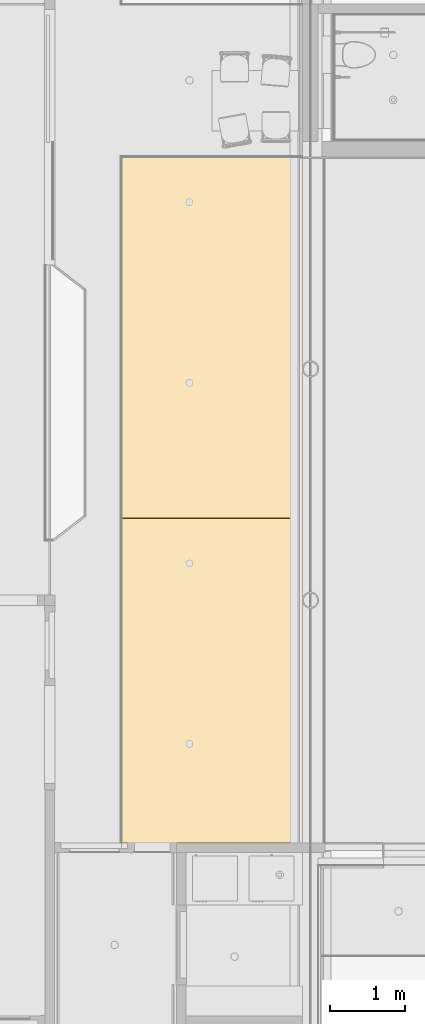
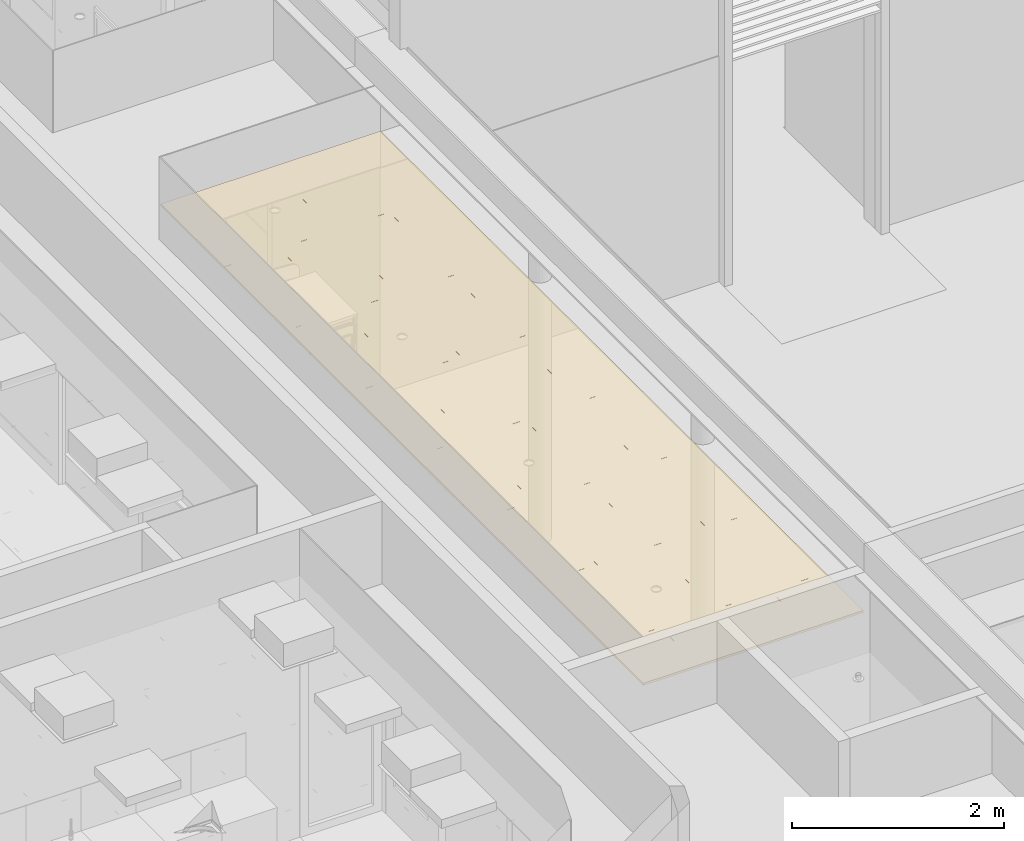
# One storey, part 167 of 347: 1 covering.
"""IFC2X3 building model written with IfcOpenShell, lengths in millimetres."""

import ifcopenshell
import ifcopenshell.guid

model = None  # the IFC model being written
_history = None  # IfcOwnerHistory: only IFC2X3 demands one
_inside = {}  # id of a spatial element -> (the spatial element, [elements in it])
_under = {}  # id of a project, library or spatial element -> (it, [spatial elements below it])
_declared = {}  # id of a project -> (the project, [libraries it declares])
_typed = {}  # id of a type object -> (the type object, [elements of that type])
_made_of = {}  # id of a material, layer set ... -> (it, [elements and type objects made of it])


def new_model(schema):
    """Start an empty IFC model of exactly this schema.

    Asked for "IFC4X3", IfcOpenShell would pick the latest addendum, in which some entities
    have other attributes; the version numbers below select the first issue.
    IFC2X3 requires an IfcOwnerHistory on every rooted entity: one is made here for all.
    """
    global model, _history
    if schema == "IFC4X3":
        model = ifcopenshell.file(schema_version=(4, 3, 0, 0))
    else:
        model = ifcopenshell.file(schema=schema)
    _inside.clear()
    _under.clear()
    _declared.clear()
    _typed.clear()
    _made_of.clear()
    _history = None
    if model.schema == "IFC2X3":
        org = make("IfcOrganization", Name="unknown")
        user = make(
            "IfcPersonAndOrganization",
            ThePerson=make("IfcPerson", FamilyName="unknown"),
            TheOrganization=org,
        )
        app = make(
            "IfcApplication",
            ApplicationDeveloper=org,
            Version="unknown",
            ApplicationFullName="unknown",
            ApplicationIdentifier="unknown",
        )
        _history = make(
            "IfcOwnerHistory",
            OwningUser=user,
            OwningApplication=app,
            ChangeAction="ADDED",
            CreationDate=0,
        )
    return model


def make(cls, **values):
    """One entity of the class cls with the attributes given. An attribute that is None is left unset."""
    return model.create_entity(
        cls, **{name: value for name, value in values.items() if value is not None}
    )


def entity(cls, *values):
    """Any entity or typed value of the class cls, its attributes in the order of the schema. None: left unset."""
    e = model.create_entity(cls)
    for i, value in enumerate(values):
        if value is not None:
            e[i] = value
    return e


def rooted(cls, **values):
    """An entity with a GlobalId (a new one), such as an element, a storey or a relation."""
    return make(cls, GlobalId=ifcopenshell.guid.new(), OwnerHistory=_history, **values)


def si_unit(unit_type, name, prefix=None):
    """IfcSIUnit, for example si_unit("LENGTHUNIT", "METRE", prefix="MILLI")."""
    return make("IfcSIUnit", UnitType=unit_type, Prefix=prefix, Name=name)


def converted_unit(unit_type, name, factor, base, dimensions=None, offset=None):
    """IfcConversionBasedUnit, such as the inch: factor (a typed value) times the base unit."""
    return make(
        "IfcConversionBasedUnit"
        if offset is None
        else "IfcConversionBasedUnitWithOffset",
        ConversionOffset=offset,
        Dimensions=None
        if dimensions is None
        else entity("IfcDimensionalExponents", *dimensions),
        UnitType=unit_type,
        Name=name,
        ConversionFactor=make(
            "IfcMeasureWithUnit", ValueComponent=factor, UnitComponent=base
        ),
    )


def derived_unit(unit_type, elements):
    """IfcDerivedUnit: a product of units, each with its exponent."""
    return make(
        "IfcDerivedUnit",
        Elements=[
            make("IfcDerivedUnitElement", Unit=unit, Exponent=power)
            for unit, power in elements
        ],
        UnitType=unit_type,
    )


def money_unit(currency):
    """IfcMonetaryUnit."""
    return make("IfcMonetaryUnit", Currency=currency)


def assignment(units):
    """IfcUnitAssignment: the units of a project."""
    return None if units is None else make("IfcUnitAssignment", Units=units)


def point(xyz):
    """IfcCartesianPoint."""
    return None if xyz is None else make("IfcCartesianPoint", Coordinates=xyz)


def direction(xyz):
    """IfcDirection."""
    return None if xyz is None else make("IfcDirection", DirectionRatios=xyz)


def frame(location, z_axis=None, x_axis=None):
    """IfcAxis2Placement3D, a coordinate frame: its origin and axes. An axis left out is left unset."""
    return make(
        "IfcAxis2Placement3D",
        Location=point(location),
        Axis=direction(z_axis),
        RefDirection=direction(x_axis),
    )


def origin_with_axes():
    """The frame at (0, 0, 0) with the z axis (0, 0, 1) and the x axis (1, 0, 0) written out."""
    return frame((0.0, 0.0, 0.0), z_axis=(0.0, 0.0, 1.0), x_axis=(1.0, 0.0, 0.0))


def place(relative_to, where):
    """IfcLocalPlacement: puts the frame where relative to a parent placement (None: the world)."""
    return make(
        "IfcLocalPlacement", PlacementRelTo=relative_to, RelativePlacement=where
    )


def context(
    kind, dimensions, precision=None, world=None, true_north=None, identifier=None
):
    """IfcGeometricRepresentationContext, for example the 3D "Model" context."""
    return make(
        "IfcGeometricRepresentationContext",
        ContextIdentifier=identifier,
        ContextType=kind,
        CoordinateSpaceDimension=dimensions,
        Precision=precision,
        WorldCoordinateSystem=world,
        TrueNorth=true_north,
    )


def subcontext(parent, identifier, kind, view, scale=None):
    """IfcGeometricRepresentationSubContext, for example "Body" below "Model"."""
    return make(
        "IfcGeometricRepresentationSubContext",
        ContextIdentifier=identifier,
        ContextType=kind,
        ParentContext=parent,
        TargetScale=scale,
        TargetView=view,
    )


def project(units=None, contexts=None):
    """IfcProject with its units and contexts."""
    return rooted(
        "IfcProject",
        Name="project",
        RepresentationContexts=contexts,
        UnitsInContext=assignment(units),
    )


def spatial(cls, under=None, at=None, **own):
    """A site, building, storey or space (cls), placed at a placement, below another one or the project."""
    s = rooted(cls, ObjectPlacement=at, **own)
    if under is not None:
        _under.setdefault(under.id(), (under, []))[1].append(s)
    return s


def faces_of(points, faces, orient=None, outer=None):
    """IfcFace entities. A face is a list of loops; a loop is a list of indices into points, from 0.

    orient and outer hold one flag for each loop. By default every Orientation is true, the
    first loop of a face is its IfcFaceOuterBound and the others are IfcFaceBound.
    """
    made = []
    for i, loops in enumerate(faces):
        bounds = []
        for j, loop in enumerate(loops):
            is_outer = j == 0 if outer is None else outer[i][j]
            bounds.append(
                make(
                    "IfcFaceOuterBound" if is_outer else "IfcFaceBound",
                    Bound=make("IfcPolyLoop", Polygon=[points[k] for k in loop]),
                    Orientation=True if orient is None else orient[i][j],
                )
            )
        made.append(make("IfcFace", Bounds=bounds))
    return made


def faceted_brep(points, faces, orient=None, outer=None, voids=None):
    """IfcFacetedBrep: a solid bounded by flat faces; with voids (closed shells), ...WithVoids."""
    shared = [point(p) for p in points]
    hull = make("IfcClosedShell", CfsFaces=faces_of(shared, faces, orient, outer))
    if voids is None:
        return make("IfcFacetedBrep", Outer=hull)
    return make(
        "IfcFacetedBrepWithVoids",
        Outer=hull,
        Voids=[
            make(cls, CfsFaces=faces_of(shared, fs, o, b)) for cls, fs, o, b in voids
        ],
    )


def shape(context_of_items, identifier, shape_type, items):
    """IfcShapeRepresentation: the items that make up one representation, for example the "Body"."""
    return make(
        "IfcShapeRepresentation",
        ContextOfItems=context_of_items,
        RepresentationIdentifier=identifier,
        RepresentationType=shape_type,
        Items=items,
    )


def made_of(thing, what):
    """Note that an element or type object is made of a material, layer set ...; save() writes the relation."""
    if what is not None:
        _made_of.setdefault(what.id(), (what, []))[1].append(thing)
    return thing


def type_object(cls, material=None, **own):
    """A type object (cls), such as IfcWallType, which elements share."""
    return made_of(rooted(cls, **own), material)


def element(
    cls,
    number,
    at=None,
    inside=None,
    cuts=None,
    type_object=None,
    material=None,
    context=None,
    identifier="Body",
    shape_type=None,
    held_by="IfcProductDefinitionShape",
    body=None,
    shapes=None,
    **own,
):
    """One element of the class cls, such as IfcWall. Its Tag is "e" and its number.

    at: its placement. inside: the storey or other place that contains it. cuts: it is an
    opening in that element (IfcRelVoidsElement). A single representation is given by context,
    identifier, shape_type and body (its items); several are given by shapes. held_by: the class
    of the entity that holds the representations. save() writes the other relations.
    """
    e = rooted(cls, Tag="e%d" % number, ObjectPlacement=at, **own)
    if body is not None:
        shapes = [shape(context, identifier, shape_type, body)]
    if shapes is not None:
        e.Representation = make(held_by, Representations=shapes)
    if inside is not None:
        _inside.setdefault(inside.id(), (inside, []))[1].append(e)
    if cuts is not None:
        rooted(
            "IfcRelVoidsElement", RelatingBuildingElement=cuts, RelatedOpeningElement=e
        )
    if type_object is not None:
        _typed.setdefault(type_object.id(), (type_object, []))[1].append(e)
    return made_of(e, material)


def aggregate(whole, parts):
    """IfcRelAggregates: a whole, such as a stair, and the parts it consists of."""
    return rooted("IfcRelAggregates", RelatingObject=whole, RelatedObjects=parts)


def save(model, path):
    """Write the relations noted so far, then the file.

    IfcRelAggregates (storeys below a building ...), IfcRelContainedInSpatialStructure (elements
    in a storey), IfcRelDefinesByType, IfcRelAssociatesMaterial and IfcRelDeclares: one each for
    every whole, place, type object, material and project.
    """
    for whole, parts in _under.values():
        aggregate(whole, parts)
    for where, things in _inside.values():
        rooted(
            "IfcRelContainedInSpatialStructure",
            RelatedElements=things,
            RelatingStructure=where,
        )
    for kind, things in _typed.values():
        rooted("IfcRelDefinesByType", RelatedObjects=things, RelatingType=kind)
    for what, things in _made_of.values():
        rooted("IfcRelAssociatesMaterial", RelatedObjects=things, RelatingMaterial=what)
    for by, libraries in _declared.values():
        rooted("IfcRelDeclares", RelatingContext=by, RelatedDefinitions=libraries)
    model.write(path)


model = new_model("IFC2X3")

# Units and contexts
model_context = context("Model", 3, precision=0.01, world=origin_with_axes(), true_north=direction((0.0, 1.0)))
plan_context = context("Plan", 3, precision=0.01, world=origin_with_axes(), true_north=direction((0.0, 1.0)))
body_context = subcontext(model_context, "Body", "Model", "MODEL_VIEW")
ifc_project = project(units=[si_unit("LENGTHUNIT", "METRE", prefix="MILLI"), si_unit("AREAUNIT", "SQUARE_METRE"), si_unit("VOLUMEUNIT", "CUBIC_METRE"), converted_unit("PLANEANGLEUNIT", "DEGREE", entity("IfcPlaneAngleMeasure", 0.0174532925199), si_unit("PLANEANGLEUNIT", "RADIAN"), dimensions=[0, 0, 0, 0, 0, 0, 0]), money_unit("EUR"), converted_unit("TIMEUNIT", "Year", entity("IfcTimeMeasure", 31556926.0), si_unit("TIMEUNIT", "SECOND"), dimensions=[0, 0, 1, 0, 0, 0, 0]), si_unit("MASSUNIT", "GRAM", prefix="KILO"), si_unit("THERMODYNAMICTEMPERATUREUNIT", "DEGREE_CELSIUS"), si_unit("LUMINOUSINTENSITYUNIT", "LUMEN"), si_unit("ENERGYUNIT", "JOULE", prefix="MEGA"), derived_unit("THERMALCONDUCTANCEUNIT", [(si_unit("POWERUNIT", "WATT"), 1), (si_unit("LENGTHUNIT", "METRE"), -1), (si_unit("THERMODYNAMICTEMPERATUREUNIT", "KELVIN"), -1)]), derived_unit("SPECIFICHEATCAPACITYUNIT", [(si_unit("ENERGYUNIT", "JOULE"), 1), (si_unit("MASSUNIT", "GRAM", prefix="KILO"), -1), (si_unit("THERMODYNAMICTEMPERATUREUNIT", "KELVIN"), -1)]), derived_unit("MASSDENSITYUNIT", [(si_unit("MASSUNIT", "GRAM", prefix="KILO"), 1), (si_unit("VOLUMEUNIT", "CUBIC_METRE"), -1)])], contexts=[model_context, plan_context])

# Site, building, storey
site_placement = place(None, origin_with_axes())
site = spatial("IfcSite", under=ifc_project, at=site_placement, Name="Site", CompositionType="ELEMENT")
building_placement = place(site_placement, origin_with_axes())
building = spatial("IfcBuilding", under=site, at=building_placement, Name="Naam gebouw", CompositionType="ELEMENT")
storey_placement = place(building_placement, origin_with_axes())
storey = spatial("IfcBuildingStorey", under=building, at=storey_placement, Name="begane grond", CompositionType="ELEMENT", Elevation=0.0)

# Covering
covering_type = type_object("IfcCoveringType", Name="Ceiling Editor INT_v2.01", PredefinedType="CEILING")
covering_placement = place(storey_placement, frame((33095.0000548, 16825.0009224, 3000.0), z_axis=(0.0, 0.0, 1.0), x_axis=(1.0, 0.0, 0.0)))
element("IfcCovering", 1, at=covering_placement, inside=storey, type_object=covering_type, Name="45 Plafondafwerkingen_77 garderobe", PredefinedType="CEILING", context=body_context, shape_type="Brep", body=[
    faceted_brep([(0.0999999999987, 0.0, 20.0), (599.9, 0.0, 20.0), (599.9, 714.89907763, 20.0), (0.0999999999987, 714.89907763, 20.0), (0.0999999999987, 0.0, 0.0), (599.9, 0.0, 0.0), (599.9, 714.89907763, 0.0), (0.0999999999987, 714.89907763, 0.0)], [[[0, 1, 2, 3]], [[1, 0, 4, 5]], [[1, 5, 6, 2]], [[2, 6, 7, 3]], [[4, 0, 3, 7]], [[5, 4, 7, 6]]]),
    faceted_brep([(599.9, 715.09907763, 20.0), (599.9, 715.09907763, 0.0), (599.9, 1914.89907763, 0.0), (599.9, 1914.89907763, 20.0), (0.0999999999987, 715.09907763, 20.0), (0.0999999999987, 715.09907763, 0.0), (0.0999999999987, 1914.89907763, 0.0), (0.0999999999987, 1914.89907763, 20.0)], [[[0, 1, 2, 3]], [[4, 5, 1, 0]], [[2, 1, 5, 6]], [[3, 2, 6, 7]], [[4, 0, 3, 7]], [[7, 6, 5, 4]]]),
    faceted_brep([(599.9, 1915.09907763, 20.0), (599.9, 1915.09907763, 0.0), (599.9, 3114.89907763, 0.0), (599.9, 3114.89907763, 20.0), (0.0999999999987, 1915.09907763, 20.0), (0.0999999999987, 1915.09907763, 0.0), (0.0999999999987, 3114.89907763, 0.0), (0.0999999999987, 3114.89907763, 20.0)], [[[0, 1, 2, 3]], [[4, 5, 1, 0]], [[2, 1, 5, 6]], [[3, 2, 6, 7]], [[4, 0, 3, 7]], [[7, 6, 5, 4]]]),
    faceted_brep([(599.9, 3115.09907763, 20.0), (599.9, 3115.09907763, 0.0), (599.9, 4314.89907763, 0.0), (599.9, 4314.89907763, 20.0), (0.0999999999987, 3115.09907763, 20.0), (0.0999999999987, 3115.09907763, 0.0), (0.0999999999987, 4314.89907763, 0.0), (0.0999999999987, 4314.89907763, 20.0)], [[[0, 1, 2, 3]], [[4, 5, 1, 0]], [[2, 1, 5, 6]], [[3, 2, 6, 7]], [[4, 0, 3, 7]], [[7, 6, 5, 4]]]),
    faceted_brep([(599.9, 4315.09907763, 20.0), (599.9, 4315.09907763, 0.0), (599.9, 5514.89907763, 0.0), (599.9, 5514.89907763, 20.0), (0.0999999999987, 4315.09907763, 20.0), (0.0999999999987, 4315.09907763, 0.0), (0.0999999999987, 5514.89907763, 0.0), (0.0999999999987, 5514.89907763, 20.0)], [[[0, 1, 2, 3]], [[4, 5, 1, 0]], [[2, 1, 5, 6]], [[3, 2, 6, 7]], [[4, 0, 3, 7]], [[7, 6, 5, 4]]]),
    faceted_brep([(599.9, 5515.09907763, 20.0), (599.9, 5515.09907763, 0.0), (599.9, 6714.89907763, 0.0), (599.9, 6714.89907763, 20.0), (0.0999999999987, 5515.09907763, 20.0), (0.0999999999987, 5515.09907763, 0.0), (0.0999999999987, 6714.89907763, 0.0), (0.0999999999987, 6714.89907763, 20.0)], [[[0, 1, 2, 3]], [[4, 5, 1, 0]], [[2, 1, 5, 6]], [[3, 2, 6, 7]], [[4, 0, 3, 7]], [[7, 6, 5, 4]]]),
    faceted_brep([(599.9, 6715.09907763, 20.0), (599.9, 6715.09907763, 0.0), (599.9, 7914.89907763, 0.0), (599.9, 7914.89907763, 20.0), (0.0999999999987, 6715.09907763, 20.0), (0.0999999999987, 6715.09907763, 0.0), (0.0999999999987, 7914.89907763, 0.0), (0.0999999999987, 7914.89907763, 20.0)], [[[0, 1, 2, 3]], [[4, 5, 1, 0]], [[2, 1, 5, 6]], [[3, 2, 6, 7]], [[4, 0, 3, 7]], [[7, 6, 5, 4]]]),
    faceted_brep([(599.9, 7915.09907763, 20.0), (599.9, 7915.09907763, 0.0), (599.9, 9114.89907763, 0.0), (599.9, 9114.89907763, 20.0), (0.0999999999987, 7915.09907763, 20.0), (0.0999999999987, 7915.09907763, 0.0), (0.0999999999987, 9114.89907763, 0.0), (0.0999999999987, 9114.89907763, 20.0)], [[[0, 1, 2, 3]], [[4, 5, 1, 0]], [[2, 1, 5, 6]], [[3, 2, 6, 7]], [[4, 0, 3, 7]], [[7, 6, 5, 4]]]),
    faceted_brep([(600.1, 0.0, 20.0), (1199.9, 0.0, 20.0), (1199.9, 714.89907763, 20.0), (600.1, 714.89907763, 20.0), (600.1, 0.0, 0.0), (1199.9, 0.0, 0.0), (1199.9, 714.89907763, 0.0), (600.1, 714.89907763, 0.0)], [[[0, 1, 2, 3]], [[1, 0, 4, 5]], [[1, 5, 6, 2]], [[2, 6, 7, 3]], [[4, 0, 3, 7]], [[5, 4, 7, 6]]]),
    faceted_brep([(1199.9, 715.09907763, 20.0), (1199.9, 715.09907763, 0.0), (1199.9, 1914.89907763, 0.0), (1199.9, 1914.89907763, 20.0), (600.1, 715.09907763, 20.0), (600.1, 715.09907763, 0.0), (600.1, 1914.89907763, 0.0), (600.1, 1914.89907763, 20.0)], [[[0, 1, 2, 3]], [[4, 5, 1, 0]], [[2, 1, 5, 6]], [[3, 2, 6, 7]], [[4, 0, 3, 7]], [[7, 6, 5, 4]]]),
    faceted_brep([(1199.9, 1915.09907763, 20.0), (1199.9, 1915.09907763, 0.0), (1199.9, 3114.89907763, 0.0), (1199.9, 3114.89907763, 20.0), (600.1, 1915.09907763, 20.0), (600.1, 1915.09907763, 0.0), (600.1, 3114.89907763, 0.0), (600.1, 3114.89907763, 20.0)], [[[0, 1, 2, 3]], [[4, 5, 1, 0]], [[2, 1, 5, 6]], [[3, 2, 6, 7]], [[4, 0, 3, 7]], [[7, 6, 5, 4]]]),
    faceted_brep([(1199.9, 3115.09907763, 20.0), (1199.9, 3115.09907763, 0.0), (1199.9, 4314.89907763, 0.0), (1199.9, 4314.89907763, 20.0), (600.1, 3115.09907763, 20.0), (600.1, 3115.09907763, 0.0), (600.1, 4314.89907763, 0.0), (600.1, 4314.89907763, 20.0)], [[[0, 1, 2, 3]], [[4, 5, 1, 0]], [[2, 1, 5, 6]], [[3, 2, 6, 7]], [[4, 0, 3, 7]], [[7, 6, 5, 4]]]),
    faceted_brep([(1199.9, 4315.09907763, 20.0), (1199.9, 4315.09907763, 0.0), (1199.9, 5514.89907763, 0.0), (1199.9, 5514.89907763, 20.0), (600.1, 4315.09907763, 20.0), (600.1, 4315.09907763, 0.0), (600.1, 5514.89907763, 0.0), (600.1, 5514.89907763, 20.0)], [[[0, 1, 2, 3]], [[4, 5, 1, 0]], [[2, 1, 5, 6]], [[3, 2, 6, 7]], [[4, 0, 3, 7]], [[7, 6, 5, 4]]]),
    faceted_brep([(1199.9, 5515.09907763, 20.0), (1199.9, 5515.09907763, 0.0), (1199.9, 6714.89907763, 0.0), (1199.9, 6714.89907763, 20.0), (600.1, 5515.09907763, 20.0), (600.1, 5515.09907763, 0.0), (600.1, 6714.89907763, 0.0), (600.1, 6714.89907763, 20.0)], [[[0, 1, 2, 3]], [[4, 5, 1, 0]], [[2, 1, 5, 6]], [[3, 2, 6, 7]], [[4, 0, 3, 7]], [[7, 6, 5, 4]]]),
    faceted_brep([(1199.9, 6715.09907763, 20.0), (1199.9, 6715.09907763, 0.0), (1199.9, 7914.89907763, 0.0), (1199.9, 7914.89907763, 20.0), (600.1, 6715.09907763, 20.0), (600.1, 6715.09907763, 0.0), (600.1, 7914.89907763, 0.0), (600.1, 7914.89907763, 20.0)], [[[0, 1, 2, 3]], [[4, 5, 1, 0]], [[2, 1, 5, 6]], [[3, 2, 6, 7]], [[4, 0, 3, 7]], [[7, 6, 5, 4]]]),
    faceted_brep([(1199.9, 7915.09907763, 20.0), (1199.9, 7915.09907763, 0.0), (1199.9, 9114.89907763, 0.0), (1199.9, 9114.89907763, 20.0), (600.1, 7915.09907763, 20.0), (600.1, 7915.09907763, 0.0), (600.1, 9114.89907763, 0.0), (600.1, 9114.89907763, 20.0)], [[[0, 1, 2, 3]], [[4, 5, 1, 0]], [[2, 1, 5, 6]], [[3, 2, 6, 7]], [[4, 0, 3, 7]], [[7, 6, 5, 4]]]),
    faceted_brep([(1200.1, 0.0, 20.0), (1799.9, 0.0, 20.0), (1799.9, 714.89907763, 20.0), (1200.1, 714.89907763, 20.0), (1200.1, 0.0, 0.0), (1799.9, 0.0, 0.0), (1799.9, 714.89907763, 0.0), (1200.1, 714.89907763, 0.0)], [[[0, 1, 2, 3]], [[1, 0, 4, 5]], [[1, 5, 6, 2]], [[2, 6, 7, 3]], [[4, 0, 3, 7]], [[5, 4, 7, 6]]]),
    faceted_brep([(1799.9, 715.09907763, 20.0), (1799.9, 715.09907763, 0.0), (1799.9, 1914.89907763, 0.0), (1799.9, 1914.89907763, 20.0), (1200.1, 715.09907763, 20.0), (1200.1, 715.09907763, 0.0), (1200.1, 1914.89907763, 0.0), (1200.1, 1914.89907763, 20.0)], [[[0, 1, 2, 3]], [[4, 5, 1, 0]], [[2, 1, 5, 6]], [[3, 2, 6, 7]], [[4, 0, 3, 7]], [[7, 6, 5, 4]]]),
    faceted_brep([(1799.9, 1915.09907763, 20.0), (1799.9, 1915.09907763, 0.0), (1799.9, 3114.89907763, 0.0), (1799.9, 3114.89907763, 20.0), (1200.1, 1915.09907763, 20.0), (1200.1, 1915.09907763, 0.0), (1200.1, 3114.89907763, 0.0), (1200.1, 3114.89907763, 20.0)], [[[0, 1, 2, 3]], [[4, 5, 1, 0]], [[2, 1, 5, 6]], [[3, 2, 6, 7]], [[4, 0, 3, 7]], [[7, 6, 5, 4]]]),
    faceted_brep([(1799.9, 3115.09907763, 20.0), (1799.9, 3115.09907763, 0.0), (1799.9, 4314.89907763, 0.0), (1799.9, 4314.89907763, 20.0), (1200.1, 3115.09907763, 20.0), (1200.1, 3115.09907763, 0.0), (1200.1, 4314.89907763, 0.0), (1200.1, 4314.89907763, 20.0)], [[[0, 1, 2, 3]], [[4, 5, 1, 0]], [[2, 1, 5, 6]], [[3, 2, 6, 7]], [[4, 0, 3, 7]], [[7, 6, 5, 4]]]),
    faceted_brep([(1799.9, 4315.09907763, 20.0), (1799.9, 4315.09907763, 0.0), (1799.9, 5514.89907763, 0.0), (1799.9, 5514.89907763, 20.0), (1200.1, 4315.09907763, 20.0), (1200.1, 4315.09907763, 0.0), (1200.1, 5514.89907763, 0.0), (1200.1, 5514.89907763, 20.0)], [[[0, 1, 2, 3]], [[4, 5, 1, 0]], [[2, 1, 5, 6]], [[3, 2, 6, 7]], [[4, 0, 3, 7]], [[7, 6, 5, 4]]]),
    faceted_brep([(1799.9, 5515.09907763, 20.0), (1799.9, 5515.09907763, 0.0), (1799.9, 6714.89907763, 0.0), (1799.9, 6714.89907763, 20.0), (1200.1, 5515.09907763, 20.0), (1200.1, 5515.09907763, 0.0), (1200.1, 6714.89907763, 0.0), (1200.1, 6714.89907763, 20.0)], [[[0, 1, 2, 3]], [[4, 5, 1, 0]], [[2, 1, 5, 6]], [[3, 2, 6, 7]], [[4, 0, 3, 7]], [[7, 6, 5, 4]]]),
    faceted_brep([(1799.9, 6715.09907763, 20.0), (1799.9, 6715.09907763, 0.0), (1799.9, 7914.89907763, 0.0), (1799.9, 7914.89907763, 20.0), (1200.1, 6715.09907763, 20.0), (1200.1, 6715.09907763, 0.0), (1200.1, 7914.89907763, 0.0), (1200.1, 7914.89907763, 20.0)], [[[0, 1, 2, 3]], [[4, 5, 1, 0]], [[2, 1, 5, 6]], [[3, 2, 6, 7]], [[4, 0, 3, 7]], [[7, 6, 5, 4]]]),
    faceted_brep([(1799.9, 7915.09907763, 20.0), (1799.9, 7915.09907763, 0.0), (1799.9, 9114.89907763, 0.0), (1799.9, 9114.89907763, 20.0), (1200.1, 7915.09907763, 20.0), (1200.1, 7915.09907763, 0.0), (1200.1, 9114.89907763, 0.0), (1200.1, 9114.89907763, 20.0)], [[[0, 1, 2, 3]], [[4, 5, 1, 0]], [[2, 1, 5, 6]], [[3, 2, 6, 7]], [[4, 0, 3, 7]], [[7, 6, 5, 4]]]),
    faceted_brep([(1800.1, 0.0, 20.0), (2399.9, 0.0, 20.0), (2399.9, 714.89907763, 20.0), (1800.1, 714.89907763, 20.0), (1800.1, 0.0, 0.0), (2399.9, 0.0, 0.0), (2399.9, 714.89907763, 0.0), (1800.1, 714.89907763, 0.0)], [[[0, 1, 2, 3]], [[1, 0, 4, 5]], [[1, 5, 6, 2]], [[2, 6, 7, 3]], [[4, 0, 3, 7]], [[5, 4, 7, 6]]]),
    faceted_brep([(2399.9, 715.09907763, 20.0), (2399.9, 715.09907763, 0.0), (2399.9, 1914.89907763, 0.0), (2399.9, 1914.89907763, 20.0), (1800.1, 715.09907763, 20.0), (1800.1, 715.09907763, 0.0), (1800.1, 1914.89907763, 0.0), (1800.1, 1914.89907763, 20.0)], [[[0, 1, 2, 3]], [[4, 5, 1, 0]], [[2, 1, 5, 6]], [[3, 2, 6, 7]], [[4, 0, 3, 7]], [[7, 6, 5, 4]]]),
    faceted_brep([(2399.9, 1915.09907763, 20.0), (2399.9, 1915.09907763, 0.0), (2399.9, 3114.89907763, 0.0), (2399.9, 3114.89907763, 20.0), (1800.1, 1915.09907763, 20.0), (1800.1, 1915.09907763, 0.0), (1800.1, 3114.89907763, 0.0), (1800.1, 3114.89907763, 20.0)], [[[0, 1, 2, 3]], [[4, 5, 1, 0]], [[2, 1, 5, 6]], [[3, 2, 6, 7]], [[4, 0, 3, 7]], [[7, 6, 5, 4]]]),
    faceted_brep([(2399.9, 3115.09907763, 20.0), (2399.9, 3115.09907763, 0.0), (2399.9, 4314.89907763, 0.0), (2399.9, 4314.89907763, 20.0), (1800.1, 3115.09907763, 20.0), (1800.1, 3115.09907763, 0.0), (1800.1, 4314.89907763, 0.0), (1800.1, 4314.89907763, 20.0)], [[[0, 1, 2, 3]], [[4, 5, 1, 0]], [[2, 1, 5, 6]], [[3, 2, 6, 7]], [[4, 0, 3, 7]], [[7, 6, 5, 4]]]),
    faceted_brep([(2399.9, 4315.09907763, 20.0), (2399.9, 4315.09907763, 0.0), (2399.9, 5514.89907763, 0.0), (2399.9, 5514.89907763, 20.0), (1800.1, 4315.09907763, 20.0), (1800.1, 4315.09907763, 0.0), (1800.1, 5514.89907763, 0.0), (1800.1, 5514.89907763, 20.0)], [[[0, 1, 2, 3]], [[4, 5, 1, 0]], [[2, 1, 5, 6]], [[3, 2, 6, 7]], [[4, 0, 3, 7]], [[7, 6, 5, 4]]]),
    faceted_brep([(2399.9, 5515.09907763, 20.0), (2399.9, 5515.09907763, 0.0), (2399.9, 6714.89907763, 0.0), (2399.9, 6714.89907763, 20.0), (1800.1, 5515.09907763, 20.0), (1800.1, 5515.09907763, 0.0), (1800.1, 6714.89907763, 0.0), (1800.1, 6714.89907763, 20.0)], [[[0, 1, 2, 3]], [[4, 5, 1, 0]], [[2, 1, 5, 6]], [[3, 2, 6, 7]], [[4, 0, 3, 7]], [[7, 6, 5, 4]]]),
    faceted_brep([(2399.9, 6715.09907763, 20.0), (2399.9, 6715.09907763, 0.0), (2399.9, 7914.89907763, 0.0), (2399.9, 7914.89907763, 20.0), (1800.1, 6715.09907763, 20.0), (1800.1, 6715.09907763, 0.0), (1800.1, 7914.89907763, 0.0), (1800.1, 7914.89907763, 20.0)], [[[0, 1, 2, 3]], [[4, 5, 1, 0]], [[2, 1, 5, 6]], [[3, 2, 6, 7]], [[4, 0, 3, 7]], [[7, 6, 5, 4]]]),
    faceted_brep([(2399.9, 7915.09907763, 20.0), (2399.9, 7915.09907763, 0.0), (2399.9, 9114.89907763, 0.0), (2399.9, 9114.89907763, 20.0), (1800.1, 7915.09907763, 20.0), (1800.1, 7915.09907763, 0.0), (1800.1, 9114.89907763, 0.0), (1800.1, 9114.89907763, 20.0)], [[[0, 1, 2, 3]], [[4, 5, 1, 0]], [[2, 1, 5, 6]], [[3, 2, 6, 7]], [[4, 0, 3, 7]], [[7, 6, 5, 4]]]),
    faceted_brep([(612.5, 25.0, 0.0), (612.5, 25.0, -5.0), (612.5, 702.49907763, -5.0), (612.5, 702.49907763, 0.0), (1187.5, 25.0, 0.0), (1187.5, 25.0, -5.0), (1187.5, 0.0, -5.0), (612.5, 0.0, -5.0), (600.0, 0.0, -5.0), (587.5, 0.0, -5.0), (12.5, 0.0, -5.0), (0.0, 0.0, -5.0), (0.0, 2278.74976941, -5.0), (0.0, 4557.49953881, -5.0), (0.0, 6836.24930822, -5.0), (0.0, 9114.99907763, -5.0), (600.0, 9114.99907763, -5.0), (1200.0, 9114.99907763, -5.0), (1800.0, 9114.99907763, -5.0), (2400.0, 9114.99907763, -5.0), (2400.0, 6836.24930822, -5.0), (2400.0, 4557.49953881, -5.0), (2400.0, 2278.74976941, -5.0), (2400.0, 0.0, -5.0), (2387.5, 0.0, -5.0), (1812.5, 0.0, -5.0), (1800.0, 0.0, -5.0), (1787.5, 0.0, -5.0), (1212.5, 0.0, -5.0), (1200.0, 0.0, -5.0), (25.0, 9089.99907763, -5.0), (25.0, 7927.49907763, -5.0), (587.5, 7927.49907763, -5.0), (587.5, 9089.99907763, -5.0), (612.5, 9089.99907763, -5.0), (612.5, 7927.49907763, -5.0), (1187.5, 7927.49907763, -5.0), (1187.5, 9089.99907763, -5.0), (1212.5, 9089.99907763, -5.0), (1212.5, 7927.49907763, -5.0), (1787.5, 7927.49907763, -5.0), (1787.5, 9089.99907763, -5.0), (2375.0, 9089.99907763, -5.0), (1812.5, 9089.99907763, -5.0), (1812.5, 7927.49907763, -5.0), (2375.0, 7927.49907763, -5.0), (25.0, 727.49907763, -5.0), (587.5, 727.49907763, -5.0), (587.5, 1902.49907763, -5.0), (25.0, 1902.49907763, -5.0), (1187.5, 727.49907763, -5.0), (1187.5, 1902.49907763, -5.0), (612.5, 1902.49907763, -5.0), (612.5, 727.49907763, -5.0), (1787.5, 727.49907763, -5.0), (1787.5, 1902.49907763, -5.0), (1212.5, 1902.49907763, -5.0), (1212.5, 727.49907763, -5.0), (2375.0, 1902.49907763, -5.0), (1812.5, 1902.49907763, -5.0), (1812.5, 727.49907763, -5.0), (2375.0, 727.49907763, -5.0), (25.0, 1927.49907763, -5.0), (587.5, 1927.49907763, -5.0), (587.5, 3102.49907763, -5.0), (25.0, 3102.49907763, -5.0), (1187.5, 1927.49907763, -5.0), (1187.5, 3102.49907763, -5.0), (612.5, 3102.49907763, -5.0), (612.5, 1927.49907763, -5.0), (1787.5, 1927.49907763, -5.0), (1787.5, 3102.49907763, -5.0), (1212.5, 3102.49907763, -5.0), (1212.5, 1927.49907763, -5.0), (2375.0, 3102.49907763, -5.0), (1812.5, 3102.49907763, -5.0), (1812.5, 1927.49907763, -5.0), (2375.0, 1927.49907763, -5.0), (25.0, 3127.49907763, -5.0), (587.5, 3127.49907763, -5.0), (587.5, 4302.49907763, -5.0), (25.0, 4302.49907763, -5.0), (1187.5, 3127.49907763, -5.0), (1187.5, 4302.49907763, -5.0), (612.5, 4302.49907763, -5.0), (612.5, 3127.49907763, -5.0), (1787.5, 3127.49907763, -5.0), (1787.5, 4302.49907763, -5.0), (1212.5, 4302.49907763, -5.0), (1212.5, 3127.49907763, -5.0), (2375.0, 4302.49907763, -5.0), (1812.5, 4302.49907763, -5.0), (1812.5, 3127.49907763, -5.0), (2375.0, 3127.49907763, -5.0), (25.0, 4327.49907763, -5.0), (587.5, 4327.49907763, -5.0), (587.5, 5502.49907763, -5.0), (25.0, 5502.49907763, -5.0), (1187.5, 4327.49907763, -5.0), (1187.5, 5502.49907763, -5.0), (612.5, 5502.49907763, -5.0), (612.5, 4327.49907763, -5.0), (1787.5, 4327.49907763, -5.0), (1787.5, 5502.49907763, -5.0), (1212.5, 5502.49907763, -5.0), (1212.5, 4327.49907763, -5.0), (2375.0, 5502.49907763, -5.0), (1812.5, 5502.49907763, -5.0), (1812.5, 4327.49907763, -5.0), (2375.0, 4327.49907763, -5.0), (25.0, 5527.49907763, -5.0), (587.5, 5527.49907763, -5.0), (587.5, 6702.49907763, -5.0), (25.0, 6702.49907763, -5.0), (1187.5, 5527.49907763, -5.0), (1187.5, 6702.49907763, -5.0), (612.5, 6702.49907763, -5.0), (612.5, 5527.49907763, -5.0), (1787.5, 5527.49907763, -5.0), (1787.5, 6702.49907763, -5.0), (1212.5, 6702.49907763, -5.0), (1212.5, 5527.49907763, -5.0), (2375.0, 6702.49907763, -5.0), (1812.5, 6702.49907763, -5.0), (1812.5, 5527.49907763, -5.0), (2375.0, 5527.49907763, -5.0), (25.0, 6727.49907763, -5.0), (587.5, 6727.49907763, -5.0), (587.5, 7902.49907763, -5.0), (25.0, 7902.49907763, -5.0), (1187.5, 6727.49907763, -5.0), (1187.5, 7902.49907763, -5.0), (612.5, 7902.49907763, -5.0), (612.5, 6727.49907763, -5.0), (1787.5, 6727.49907763, -5.0), (1787.5, 7902.49907763, -5.0), (1212.5, 7902.49907763, -5.0), (1212.5, 6727.49907763, -5.0), (2375.0, 7902.49907763, -5.0), (1812.5, 7902.49907763, -5.0), (1812.5, 6727.49907763, -5.0), (2375.0, 6727.49907763, -5.0), (25.0, 25.0, -5.0), (587.5, 25.0, -5.0), (587.5, 702.49907763, -5.0), (25.0, 702.49907763, -5.0), (2375.0, 25.0, -5.0), (2375.0, 702.49907763, -5.0), (1812.5, 702.49907763, -5.0), (1812.5, 25.0, -5.0), (1787.5, 25.0, -5.0), (1787.5, 702.49907763, -5.0), (1212.5, 702.49907763, -5.0), (1212.5, 25.0, -5.0), (1187.5, 702.49907763, -5.0), (1187.5, 702.49907763, 0.0), (1187.5, 0.0, 0.0), (1200.0, 0.0, 0.0), (1212.5, 0.0, 0.0), (1787.5, 0.0, 0.0), (1800.0, 0.0, 0.0), (1812.5, 0.0, 0.0), (2387.5, 0.0, 0.0), (2400.0, 0.0, 0.0), (2400.0, 2278.74976941, 0.0), (2400.0, 4557.49953881, 0.0), (2400.0, 6836.24930822, 0.0), (2400.0, 9114.99907763, 0.0), (1800.0, 9114.99907763, 0.0), (1200.0, 9114.99907763, 0.0), (600.0, 9114.99907763, 0.0), (0.0, 9114.99907763, 0.0), (0.0, 6836.24930822, 0.0), (0.0, 4557.49953881, 0.0), (0.0, 2278.74976941, 0.0), (0.0, 0.0, 0.0), (12.5, 0.0, 0.0), (587.5, 0.0, 0.0), (600.0, 0.0, 0.0), (612.5, 0.0, 0.0), (587.5, 9089.99907763, 0.0), (587.5, 7927.49907763, 0.0), (25.0, 7927.49907763, 0.0), (25.0, 9089.99907763, 0.0), (1187.5, 9089.99907763, 0.0), (1187.5, 7927.49907763, 0.0), (612.5, 7927.49907763, 0.0), (612.5, 9089.99907763, 0.0), (1787.5, 9089.99907763, 0.0), (1787.5, 7927.49907763, 0.0), (1212.5, 7927.49907763, 0.0), (1212.5, 9089.99907763, 0.0), (2375.0, 9089.99907763, 0.0), (2375.0, 7927.49907763, 0.0), (1812.5, 7927.49907763, 0.0), (1812.5, 9089.99907763, 0.0), (25.0, 1902.49907763, 0.0), (587.5, 1902.49907763, 0.0), (587.5, 727.49907763, 0.0), (25.0, 727.49907763, 0.0), (612.5, 1902.49907763, 0.0), (1187.5, 1902.49907763, 0.0), (1187.5, 727.49907763, 0.0), (612.5, 727.49907763, 0.0), (1212.5, 1902.49907763, 0.0), (1787.5, 1902.49907763, 0.0), (1787.5, 727.49907763, 0.0), (1212.5, 727.49907763, 0.0), (2375.0, 1902.49907763, 0.0), (2375.0, 727.49907763, 0.0), (1812.5, 727.49907763, 0.0), (1812.5, 1902.49907763, 0.0), (25.0, 3102.49907763, 0.0), (587.5, 3102.49907763, 0.0), (587.5, 1927.49907763, 0.0), (25.0, 1927.49907763, 0.0), (612.5, 3102.49907763, 0.0), (1187.5, 3102.49907763, 0.0), (1187.5, 1927.49907763, 0.0), (612.5, 1927.49907763, 0.0), (1212.5, 3102.49907763, 0.0), (1787.5, 3102.49907763, 0.0), (1787.5, 1927.49907763, 0.0), (1212.5, 1927.49907763, 0.0), (2375.0, 1927.49907763, 0.0), (1812.5, 1927.49907763, 0.0), (1812.5, 3102.49907763, 0.0), (2375.0, 3102.49907763, 0.0), (25.0, 4302.49907763, 0.0), (587.5, 4302.49907763, 0.0), (587.5, 3127.49907763, 0.0), (25.0, 3127.49907763, 0.0), (612.5, 4302.49907763, 0.0), (1187.5, 4302.49907763, 0.0), (1187.5, 3127.49907763, 0.0), (612.5, 3127.49907763, 0.0), (1212.5, 4302.49907763, 0.0), (1787.5, 4302.49907763, 0.0), (1787.5, 3127.49907763, 0.0), (1212.5, 3127.49907763, 0.0), (2375.0, 4302.49907763, 0.0), (2375.0, 3127.49907763, 0.0), (1812.5, 3127.49907763, 0.0), (1812.5, 4302.49907763, 0.0), (25.0, 5502.49907763, 0.0), (587.5, 5502.49907763, 0.0), (587.5, 4327.49907763, 0.0), (25.0, 4327.49907763, 0.0), (612.5, 5502.49907763, 0.0), (1187.5, 5502.49907763, 0.0), (1187.5, 4327.49907763, 0.0), (612.5, 4327.49907763, 0.0), (1212.5, 5502.49907763, 0.0), (1787.5, 5502.49907763, 0.0), (1787.5, 4327.49907763, 0.0), (1212.5, 4327.49907763, 0.0), (2375.0, 4327.49907763, 0.0), (1812.5, 4327.49907763, 0.0), (1812.5, 5502.49907763, 0.0), (2375.0, 5502.49907763, 0.0), (25.0, 6702.49907763, 0.0), (587.5, 6702.49907763, 0.0), (587.5, 5527.49907763, 0.0), (25.0, 5527.49907763, 0.0), (612.5, 6702.49907763, 0.0), (1187.5, 6702.49907763, 0.0), (1187.5, 5527.49907763, 0.0), (612.5, 5527.49907763, 0.0), (1212.5, 6702.49907763, 0.0), (1787.5, 6702.49907763, 0.0), (1787.5, 5527.49907763, 0.0), (1212.5, 5527.49907763, 0.0), (2375.0, 6702.49907763, 0.0), (2375.0, 5527.49907763, 0.0), (1812.5, 5527.49907763, 0.0), (1812.5, 6702.49907763, 0.0), (25.0, 7902.49907763, 0.0), (587.5, 7902.49907763, 0.0), (587.5, 6727.49907763, 0.0), (25.0, 6727.49907763, 0.0), (612.5, 7902.49907763, 0.0), (1187.5, 7902.49907763, 0.0), (1187.5, 6727.49907763, 0.0), (612.5, 6727.49907763, 0.0), (1212.5, 7902.49907763, 0.0), (1787.5, 7902.49907763, 0.0), (1787.5, 6727.49907763, 0.0), (1212.5, 6727.49907763, 0.0), (2375.0, 6727.49907763, 0.0), (1812.5, 6727.49907763, 0.0), (1812.5, 7902.49907763, 0.0), (2375.0, 7902.49907763, 0.0), (25.0, 702.49907763, 0.0), (587.5, 702.49907763, 0.0), (587.5, 25.0, 0.0), (25.0, 25.0, 0.0), (2375.0, 25.0, 0.0), (1812.5, 25.0, 0.0), (1812.5, 702.49907763, 0.0), (2375.0, 702.49907763, 0.0), (1787.5, 25.0, 0.0), (1212.5, 25.0, 0.0), (1212.5, 702.49907763, 0.0), (1787.5, 702.49907763, 0.0)], [[[0, 1, 2, 3]], [[4, 5, 1, 0]], [[6, 7, 8, 9, 10, 11, 12, 13, 14, 15, 16, 17, 18, 19, 20, 21, 22, 23, 24, 25, 26, 27, 28, 29], [30, 31, 32, 33], [34, 35, 36, 37], [38, 39, 40, 41], [42, 43, 44, 45], [46, 47, 48, 49], [50, 51, 52, 53], [54, 55, 56, 57], [58, 59, 60, 61], [62, 63, 64, 65], [66, 67, 68, 69], [70, 71, 72, 73], [74, 75, 76, 77], [78, 79, 80, 81], [82, 83, 84, 85], [86, 87, 88, 89], [90, 91, 92, 93], [94, 95, 96, 97], [98, 99, 100, 101], [102, 103, 104, 105], [106, 107, 108, 109], [110, 111, 112, 113], [114, 115, 116, 117], [118, 119, 120, 121], [122, 123, 124, 125], [126, 127, 128, 129], [130, 131, 132, 133], [134, 135, 136, 137], [138, 139, 140, 141], [142, 143, 144, 145], [146, 147, 148, 149], [150, 151, 152, 153], [5, 154, 2, 1]], [[2, 154, 155, 3]], [[156, 157, 158, 159, 160, 161, 162, 163, 164, 165, 166, 167, 168, 169, 170, 171, 172, 173, 174, 175, 176, 177, 178, 179], [180, 181, 182, 183], [184, 185, 186, 187], [188, 189, 190, 191], [192, 193, 194, 195], [196, 197, 198, 199], [200, 201, 202, 203], [204, 205, 206, 207], [208, 209, 210, 211], [212, 213, 214, 215], [216, 217, 218, 219], [220, 221, 222, 223], [224, 225, 226, 227], [228, 229, 230, 231], [232, 233, 234, 235], [236, 237, 238, 239], [240, 241, 242, 243], [244, 245, 246, 247], [248, 249, 250, 251], [252, 253, 254, 255], [256, 257, 258, 259], [260, 261, 262, 263], [264, 265, 266, 267], [268, 269, 270, 271], [272, 273, 274, 275], [276, 277, 278, 279], [280, 281, 282, 283], [284, 285, 286, 287], [288, 289, 290, 291], [292, 293, 294, 295], [296, 297, 298, 299], [300, 301, 302, 303], [4, 0, 3, 155]], [[5, 4, 155, 154]], [[6, 29, 157, 156, 179, 178, 8, 7]], [[9, 8, 178, 177, 176, 175, 11, 10]], [[12, 11, 175, 174]], [[13, 12, 174, 173]], [[14, 13, 173, 172]], [[15, 14, 172, 171]], [[171, 170, 16, 15]], [[170, 169, 17, 16]], [[169, 168, 18, 17]], [[19, 18, 168, 167]], [[20, 19, 167, 166]], [[21, 20, 166, 165]], [[22, 21, 165, 164]], [[23, 22, 164, 163]], [[24, 23, 163, 162, 161, 160, 26, 25]], [[27, 26, 160, 159, 158, 157, 29, 28]], [[30, 183, 182, 31]], [[31, 182, 181, 32]], [[180, 33, 32, 181]], [[33, 180, 183, 30]], [[34, 187, 186, 35]], [[186, 185, 36, 35]], [[184, 37, 36, 185]], [[37, 184, 187, 34]], [[38, 191, 190, 39]], [[190, 189, 40, 39]], [[188, 41, 40, 189]], [[41, 188, 191, 38]], [[42, 192, 195, 43]], [[43, 195, 194, 44]], [[193, 45, 44, 194]], [[192, 42, 45, 193]], [[46, 199, 198, 47]], [[198, 197, 48, 47]], [[196, 49, 48, 197]], [[49, 196, 199, 46]], [[202, 201, 51, 50]], [[52, 51, 201, 200]], [[53, 52, 200, 203]], [[203, 202, 50, 53]], [[206, 205, 55, 54]], [[56, 55, 205, 204]], [[57, 56, 204, 207]], [[207, 206, 54, 57]], [[58, 208, 211, 59]], [[60, 59, 211, 210]], [[209, 61, 60, 210]], [[208, 58, 61, 209]], [[62, 215, 214, 63]], [[214, 213, 64, 63]], [[212, 65, 64, 213]], [[65, 212, 215, 62]], [[218, 217, 67, 66]], [[68, 67, 217, 216]], [[69, 68, 216, 219]], [[219, 218, 66, 69]], [[222, 221, 71, 70]], [[72, 71, 221, 220]], [[73, 72, 220, 223]], [[223, 222, 70, 73]], [[74, 227, 226, 75]], [[76, 75, 226, 225]], [[224, 77, 76, 225]], [[224, 227, 74, 77]], [[78, 231, 230, 79]], [[230, 229, 80, 79]], [[228, 81, 80, 229]], [[81, 228, 231, 78]], [[234, 233, 83, 82]], [[84, 83, 233, 232]], [[85, 84, 232, 235]], [[235, 234, 82, 85]], [[238, 237, 87, 86]], [[88, 87, 237, 236]], [[89, 88, 236, 239]], [[239, 238, 86, 89]], [[90, 240, 243, 91]], [[92, 91, 243, 242]], [[241, 93, 92, 242]], [[240, 90, 93, 241]], [[94, 247, 246, 95]], [[246, 245, 96, 95]], [[244, 97, 96, 245]], [[97, 244, 247, 94]], [[250, 249, 99, 98]], [[100, 99, 249, 248]], [[101, 100, 248, 251]], [[251, 250, 98, 101]], [[254, 253, 103, 102]], [[104, 103, 253, 252]], [[105, 104, 252, 255]], [[255, 254, 102, 105]], [[106, 259, 258, 107]], [[108, 107, 258, 257]], [[256, 109, 108, 257]], [[256, 259, 106, 109]], [[110, 263, 262, 111]], [[262, 261, 112, 111]], [[260, 113, 112, 261]], [[113, 260, 263, 110]], [[266, 265, 115, 114]], [[116, 115, 265, 264]], [[117, 116, 264, 267]], [[267, 266, 114, 117]], [[270, 269, 119, 118]], [[120, 119, 269, 268]], [[121, 120, 268, 271]], [[271, 270, 118, 121]], [[122, 272, 275, 123]], [[124, 123, 275, 274]], [[273, 125, 124, 274]], [[272, 122, 125, 273]], [[126, 279, 278, 127]], [[278, 277, 128, 127]], [[276, 129, 128, 277]], [[129, 276, 279, 126]], [[282, 281, 131, 130]], [[132, 131, 281, 280]], [[133, 132, 280, 283]], [[283, 282, 130, 133]], [[286, 285, 135, 134]], [[136, 135, 285, 284]], [[137, 136, 284, 287]], [[287, 286, 134, 137]], [[138, 291, 290, 139]], [[140, 139, 290, 289]], [[288, 141, 140, 289]], [[288, 291, 138, 141]], [[142, 295, 294, 143]], [[143, 294, 293, 144]], [[292, 145, 144, 293]], [[145, 292, 295, 142]], [[146, 296, 299, 147]], [[147, 299, 298, 148]], [[297, 149, 148, 298]], [[296, 146, 149, 297]], [[150, 300, 303, 151]], [[152, 151, 303, 302]], [[301, 153, 152, 302]], [[300, 150, 153, 301]]]),
])

save(model, "model.ifc")
